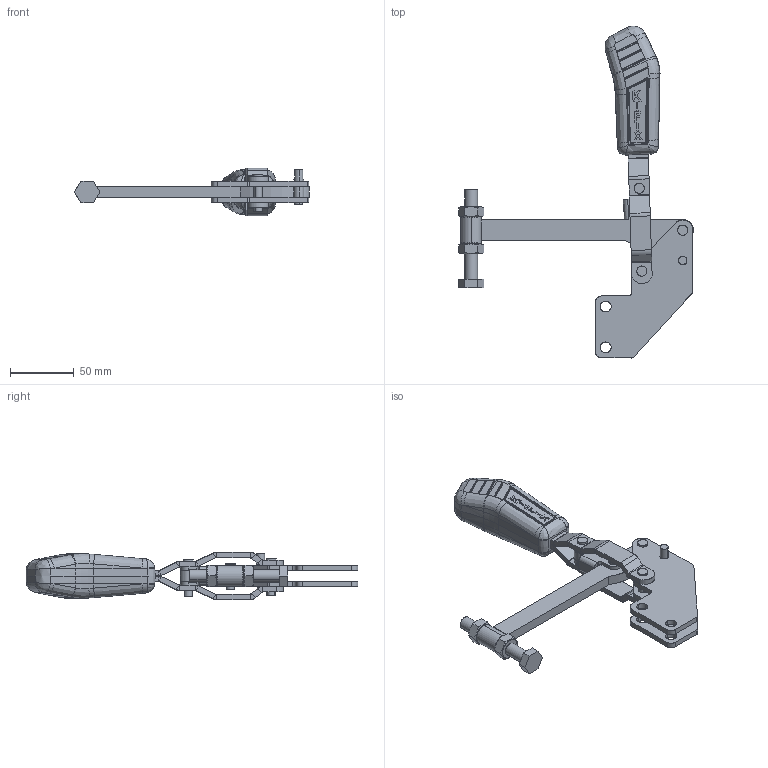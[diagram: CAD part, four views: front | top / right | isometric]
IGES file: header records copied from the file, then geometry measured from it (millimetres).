
Start section: SolidWorks IGES file using analytic representation for surfaces
Global section: file name: C:\Projetos\Grampos\KF-311\KF-311 RS\KF-311 RS.IGS; native system: SolidWorks 2013; preprocessor: SolidWorks 2013; author: Ricardo; date: 140731.142505; units: millimetre
Bounding box: 183.75 x 259.79 x 37 mm (x, y, z)
Surface area: 75276.5 mm2 (no closed solid volume)
Topology: 0 solids, 0 shells, 739 faces, 8002 edges, 7971 vertices
Faces by surface type: bspline 451, revolution 288
